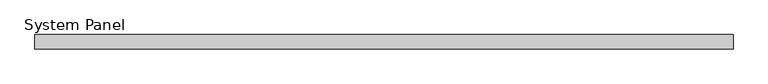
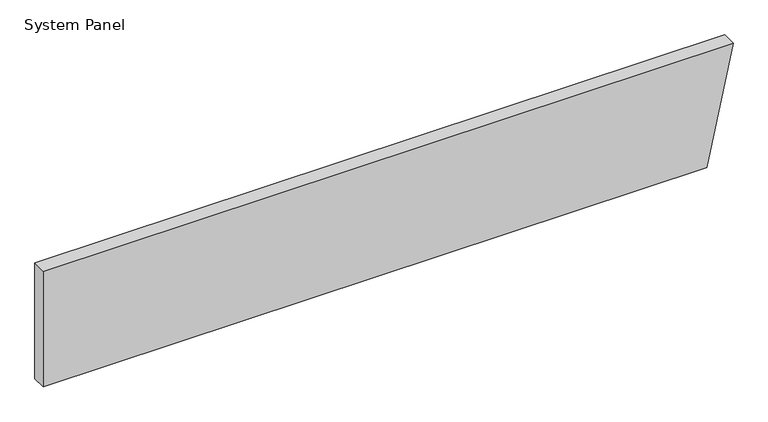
"""IFC4 building model written with IfcOpenShell, lengths in millimetres: plate geometry, System Panel : InsulWall_140mm_Plain_Surfmist."""

from ifc_helpers import new_model, si_unit, frame, origin, place, context, project, spatial, polyline, outline, extrude, source, transform, mapped, element, save


def system_panel_6d4c7243(model_context):
    return source(origin(), model_context, "Body", "SweptSolid", [
        extrude(outline(polyline([(0.0, -3386.3074928), (0.0, 3125.4358309), (1200.0, 3386.3074928), (1200.0, -3386.3074928), (0.0, -3386.3074928)])), frame((0.0, -140.0, 0.0), z_axis=(0.0, 1.0, 0.0), x_axis=(0.0, 0.0, 1.0)), (0.0, 0.0, 1.0), 140.0),
    ])


if __name__ == "__main__":
    model = new_model("IFC4")
    model_context = context("Model", 3, world=origin())
    ifc_project = project(units=[si_unit("LENGTHUNIT", "METRE", prefix="MILLI")], contexts=[model_context])
    site = spatial("IfcSite", under=ifc_project)
    building = spatial("IfcBuilding", under=site)
    placement = place(None, origin())
    system_panel_shape = system_panel_6d4c7243(model_context)
    element("IfcPlate", 1, ObjectType="System Panel : InsulWall_140mm_Plain_Surfmist", at=placement, inside=building, context=model_context, shape_type="MappedRepresentation", body=[
        mapped(system_panel_shape, transform((0.0, 0.0, 0.0), x_axis=(1.0, 0.0, 0.0), y_axis=(0.0, 1.0, 0.0), z_axis=(0.0, 0.0, 1.0))),
    ])
    save(model, "model.ifc")
